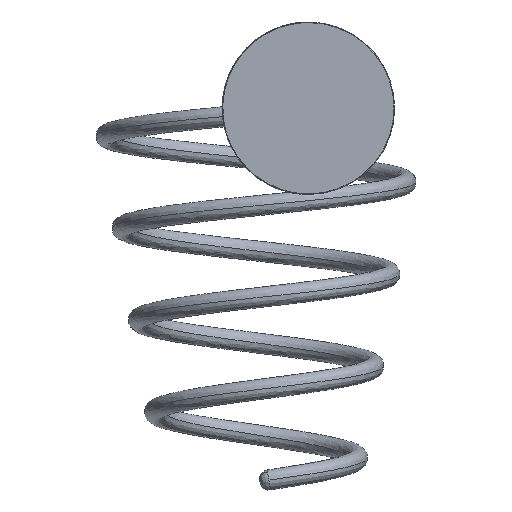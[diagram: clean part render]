
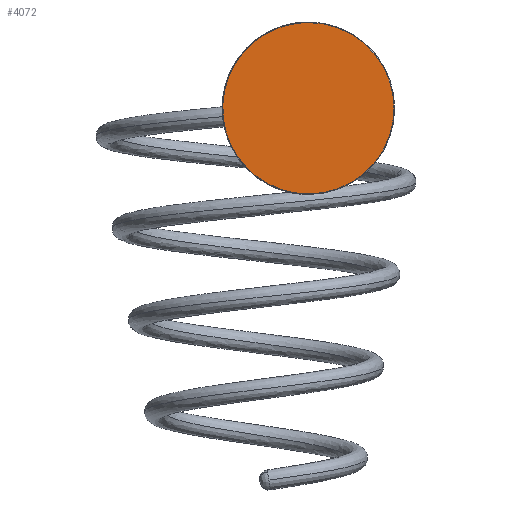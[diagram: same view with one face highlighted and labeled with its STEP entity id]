
A CAD part, front view. The second image highlights one B-rep face of the part: STEP entity #4072.
In plain terms, the highlighted planar face has unit normal (0, -1, 0).
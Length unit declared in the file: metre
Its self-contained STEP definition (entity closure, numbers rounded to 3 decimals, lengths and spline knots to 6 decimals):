
#20=EDGE_CURVE('',#21,#23,#25,.F.);
#21=VERTEX_POINT('',#22);
#22=CARTESIAN_POINT('',(0.0,-0.014,-0.0298));
#23=VERTEX_POINT('',#24);
#24=CARTESIAN_POINT('',(0.0,-0.014,0.0298));
#25=CIRCLE('',#26,0.0298);
#26=AXIS2_PLACEMENT_3D('',#27,#28,#29);
#27=CARTESIAN_POINT('',(0.0,-0.014,0.0));
#28=DIRECTION('',(0.0,1.0,0.0));
#29=DIRECTION('',(0.0,0.0,1.0));
#4072=ADVANCED_FACE('',(#4078),#4073,.F.);
#4073=PLANE('',#4074);
#4074=AXIS2_PLACEMENT_3D('',#4075,#4076,#4077);
#4075=CARTESIAN_POINT('',(0.0,-0.014,0.03));
#4076=DIRECTION('',(0.0,1.0,0.0));
#4077=DIRECTION('',(0.0,0.0,1.0));
#4078=FACE_OUTER_BOUND('',#4079,.T.);
#4079=EDGE_LOOP('',(#4080,#4088));
#4080=ORIENTED_EDGE('',*,*,#4082,.T.);
#4081=CARTESIAN_POINT('',(0.0,-0.014,-0.0298));
#4082=EDGE_CURVE('',#23,#21,#4083,.F.);
#4083=(B_SPLINE_CURVE(3,(#4081,#4084,#4085,#4086),.UNSPECIFIED.,.F.,.U.)B_SPLINE_CURVE_WITH_KNOTS(
  (4,4),(0.0,1.0),.UNSPECIFIED.)BOUNDED_CURVE()CURVE()GEOMETRIC_REPRESENTATION_ITEM(
  )RATIONAL_B_SPLINE_CURVE((1.0,0.333,0.333,1.0)
  )REPRESENTATION_ITEM(''));
#4084=CARTESIAN_POINT('',(-0.0596,-0.014,-0.0298));
#4085=CARTESIAN_POINT('',(-0.0596,-0.014,0.0298));
#4086=CARTESIAN_POINT('',(0.0,-0.014,0.0298));
#4088=ORIENTED_EDGE('',*,*,#20,.T.);
